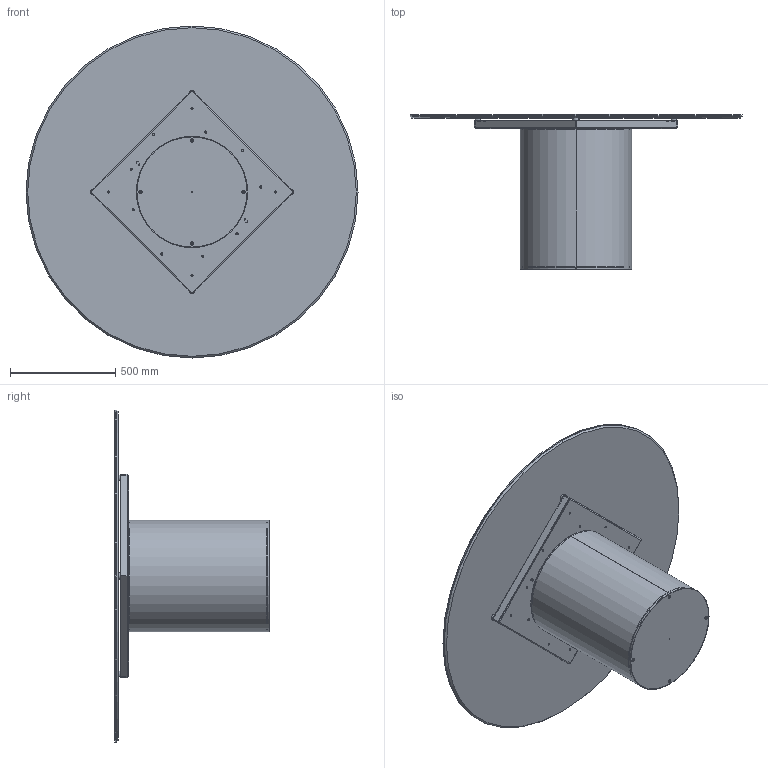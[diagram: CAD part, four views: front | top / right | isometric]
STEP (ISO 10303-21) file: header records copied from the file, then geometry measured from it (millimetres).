
FILE_DESCRIPTION (( 'STEP AP203' ), '1' );
FILE_NAME ('CI07C.STEP', '2024-08-08T07:01:57', ( '' ), ( '' ), 'SwSTEP 2.0', 'SolidWorks 2022', '' );
FILE_SCHEMA (( 'CONFIG_CONTROL_DESIGN' ));
Length unit declared in the file: millimetre
Products named in the file (11): TTAV0801-02-TELAIO UNIVERSALE TONDO; C2B000000_02-01-ZAVORRA IN FERRO D.530mm; TTAV0801-02-TELAIO UNIVERSALE TONDO-VASSOIO; M8xXXmm_hex_M8X20mm; K1XCMXX-00-Piani Rotondi in ceramica_D.1580; 434070-00-PIEDINO TPV GOMMA NERO D. 30x8max18_filo estetico; CI07C; C2B000000_01-00-struttura cilindro D.530mm; COLLO TELAIO UNIVERSALE TTAV0801 CON FERRAMENTA_MTG TOP CRISTALLO VERNICIATO-CERAMICA; C2B000000-03-CILINDRO BASE D.530mm_Normale; TTAV0801 TELAIO UNIVERSALE TONDO-PIASTRINA
Assembly tree (19 placements, depth 4):
  CI07C
    C2B000000-03-CILINDRO BASE D.530mm_Normale
      C2B000000_01-00-struttura cilindro D.530mm
      C2B000000_02-01-ZAVORRA IN FERRO D.530mm
      M8xXXmm_hex_M8X20mm  x4
    COLLO TELAIO UNIVERSALE TTAV0801 CON FERRAMENTA_MTG TOP CRISTALLO VERNICIATO-CERAMICA
      TTAV0801-02-TELAIO UNIVERSALE TONDO
        TTAV0801-02-TELAIO UNIVERSALE TONDO-VASSOIO
        TTAV0801 TELAIO UNIVERSALE TONDO-PIASTRINA  x4
      434070-00-PIEDINO TPV GOMMA NERO D. 30x8max18_filo estetico  x4
    K1XCMXX-00-Piani Rotondi in ceramica_D.1580
Bounding box: 1580 x 736 x 1580 mm (x, y, z)
Volume: 38533714.8 mm3; surface area: 12042917.9 mm2
Topology: 24 solids, 24 shells, 710 faces, 1786 edges, 1116 vertices
Faces by surface type: plane 334, cylinder 304, cone 34, torus 24, sphere 14
Entity records: 15582 total; most frequent: DIRECTION 2601, CARTESIAN_POINT 2408, ORIENTED_EDGE 2358, EDGE_CURVE 1179, AXIS2_PLACEMENT_3D 942, VERTEX_POINT 749, LINE 717, VECTOR 717
